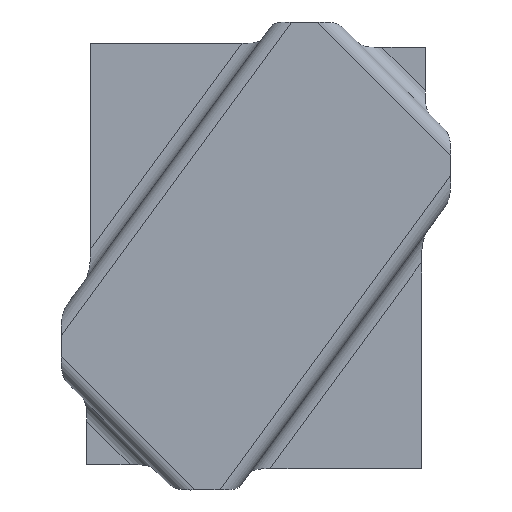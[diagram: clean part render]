
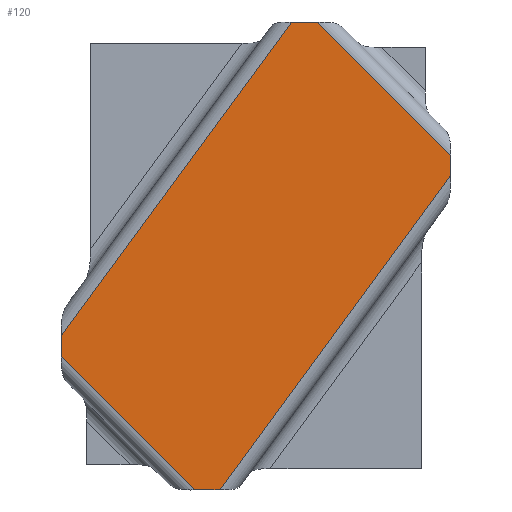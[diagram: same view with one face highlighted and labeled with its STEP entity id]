
A CAD part, top view. The second image highlights one B-rep face of the part: STEP entity #120.
In plain terms, the highlighted planar face has unit normal (0, 0, -1).
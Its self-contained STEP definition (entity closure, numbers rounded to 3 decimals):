
#53=CARTESIAN_POINT('Axis2P3D Location',(-51.9,38.092,64.879)) ;
#59=CARTESIAN_POINT('Control Point',(-51.9,77.346,64.879)) ;
#60=CARTESIAN_POINT('Control Point',(6.629,157.092,64.879)) ;
#61=CARTESIAN_POINT('Vertex',(-51.9,77.346,64.879)) ;
#63=CARTESIAN_POINT('Vertex',(6.629,157.092,64.879)) ;
#66=CARTESIAN_POINT('Line Origine',(-2.4,157.092,64.879)) ;
#70=CARTESIAN_POINT('Vertex',(13.274,157.092,64.879)) ;
#74=CARTESIAN_POINT('Control Point',(13.274,157.092,64.879)) ;
#75=CARTESIAN_POINT('Control Point',(47.1,123.266,64.879)) ;
#76=CARTESIAN_POINT('Vertex',(47.1,123.266,64.879)) ;
#79=CARTESIAN_POINT('Line Origine',(47.1,97.592,64.879)) ;
#83=CARTESIAN_POINT('Vertex',(47.1,117.943,64.879)) ;
#87=CARTESIAN_POINT('Control Point',(47.1,117.943,64.879)) ;
#88=CARTESIAN_POINT('Control Point',(-11.507,38.092,64.879)) ;
#89=CARTESIAN_POINT('Vertex',(-11.507,38.092,64.879)) ;
#92=CARTESIAN_POINT('Line Origine',(-2.4,38.092,64.879)) ;
#96=CARTESIAN_POINT('Vertex',(-18.075,38.092,64.879)) ;
#100=CARTESIAN_POINT('Control Point',(-51.9,71.918,64.879)) ;
#101=CARTESIAN_POINT('Control Point',(-18.075,38.092,64.879)) ;
#102=CARTESIAN_POINT('Vertex',(-51.9,71.918,64.879)) ;
#105=CARTESIAN_POINT('Line Origine',(-51.9,97.592,64.879)) ;
#54=DIRECTION('Axis2P3D Direction',(0.,0.,1.)) ;
#55=DIRECTION('Axis2P3D XDirection',(1.,0.,0.)) ;
#67=DIRECTION('Vector Direction',(1.,0.,0.)) ;
#80=DIRECTION('Vector Direction',(0.,1.,0.)) ;
#93=DIRECTION('Vector Direction',(1.,0.,0.)) ;
#106=DIRECTION('Vector Direction',(0.,1.,0.)) ;
#56=AXIS2_PLACEMENT_3D('Plane Axis2P3D',#53,#54,#55) ;
#111=ORIENTED_EDGE('',*,*,#65,.T.) ;
#112=ORIENTED_EDGE('',*,*,#72,.T.) ;
#113=ORIENTED_EDGE('',*,*,#78,.T.) ;
#114=ORIENTED_EDGE('',*,*,#85,.T.) ;
#115=ORIENTED_EDGE('',*,*,#91,.T.) ;
#116=ORIENTED_EDGE('',*,*,#98,.T.) ;
#117=ORIENTED_EDGE('',*,*,#104,.F.) ;
#118=ORIENTED_EDGE('',*,*,#109,.T.) ;
#68=VECTOR('Line Direction',#67,1.) ;
#81=VECTOR('Line Direction',#80,1.) ;
#94=VECTOR('Line Direction',#93,1.) ;
#107=VECTOR('Line Direction',#106,1.) ;
#120=ADVANCED_FACE('Offset.1',(#119),#57,.F.) ;
#58=B_SPLINE_CURVE_WITH_KNOTS('',1,(#59,#60),.UNSPECIFIED.,.F.,.U.,(2,2),(-49.46,49.46),.UNSPECIFIED.) ;
#73=B_SPLINE_CURVE_WITH_KNOTS('',1,(#74,#75),.UNSPECIFIED.,.F.,.U.,(2,2),(-23.919,23.919),.UNSPECIFIED.) ;
#86=B_SPLINE_CURVE_WITH_KNOTS('',1,(#87,#88),.UNSPECIFIED.,.F.,.U.,(2,2),(-49.525,49.525),.UNSPECIFIED.) ;
#99=B_SPLINE_CURVE_WITH_KNOTS('',1,(#100,#101),.UNSPECIFIED.,.F.,.U.,(2,2),(-23.919,23.919),.UNSPECIFIED.) ;
#65=EDGE_CURVE('',#62,#64,#58,.T.) ;
#72=EDGE_CURVE('',#64,#71,#69,.T.) ;
#78=EDGE_CURVE('',#71,#77,#73,.T.) ;
#85=EDGE_CURVE('',#77,#84,#82,.F.) ;
#91=EDGE_CURVE('',#84,#90,#86,.T.) ;
#98=EDGE_CURVE('',#90,#97,#95,.F.) ;
#104=EDGE_CURVE('',#103,#97,#99,.T.) ;
#109=EDGE_CURVE('',#103,#62,#108,.T.) ;
#110=EDGE_LOOP('',(#111,#112,#113,#114,#115,#116,#117,#118)) ;
#119=FACE_OUTER_BOUND('',#110,.T.) ;
#69=LINE('Line',#66,#68) ;
#82=LINE('Line',#79,#81) ;
#95=LINE('Line',#92,#94) ;
#108=LINE('Line',#105,#107) ;
#57=PLANE('',#56) ;
#62=VERTEX_POINT('',#61) ;
#64=VERTEX_POINT('',#63) ;
#71=VERTEX_POINT('',#70) ;
#77=VERTEX_POINT('',#76) ;
#84=VERTEX_POINT('',#83) ;
#90=VERTEX_POINT('',#89) ;
#97=VERTEX_POINT('',#96) ;
#103=VERTEX_POINT('',#102) ;
